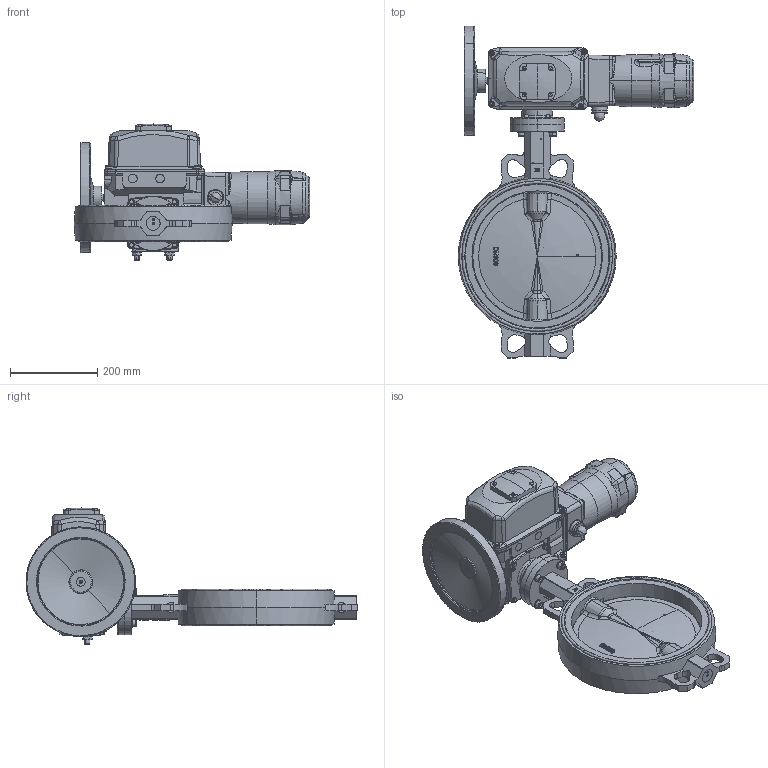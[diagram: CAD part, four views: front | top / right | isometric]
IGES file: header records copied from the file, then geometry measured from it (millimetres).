
Start section: SolidWorks IGES file using NURBS representation for surfaces
Global section: file name: H:\BE BIBLIOTHEQUE 3D\Projet_Biblio3D_2016\FSK\VPI\VPI-B04\VPI-B04 DN300.Igs; native system: SolidWorks 2014; preprocessor: SolidWorks 2014; author: a.cartier; date: 160929.163906; units: millimetre
Bounding box: 541.3 x 762.88 x 312.57 mm (x, y, z)
Volume: 14596789.6 mm3; surface area: 1102276.6 mm2
Topology: 14 solids, 14 shells, 2349 faces, 6158 edges, 3783 vertices
Faces by surface type: bspline 2349
